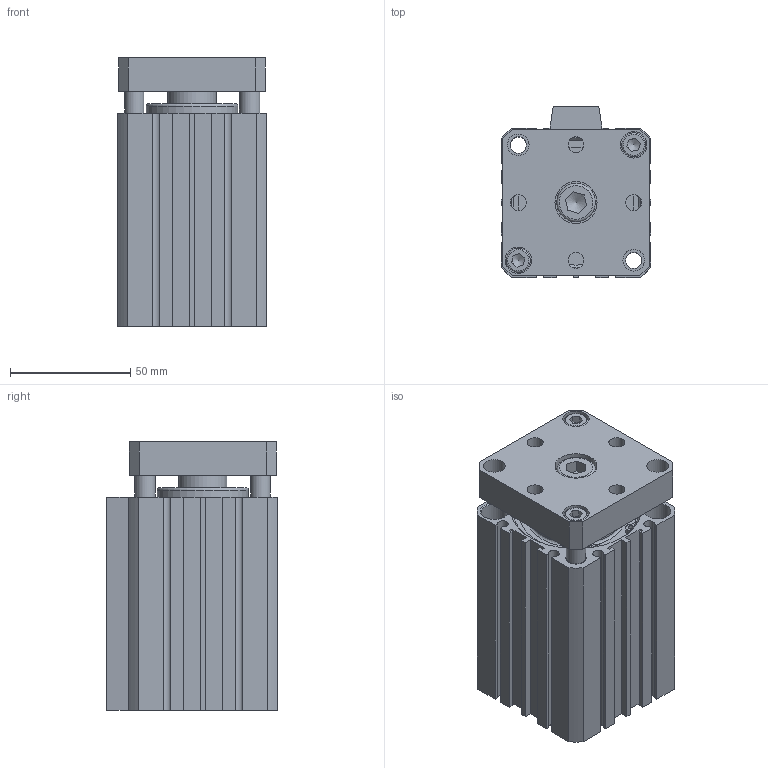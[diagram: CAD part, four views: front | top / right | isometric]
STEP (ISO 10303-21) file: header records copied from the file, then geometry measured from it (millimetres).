
FILE_DESCRIPTION((''),'2;1');
FILE_NAME('I:\3D電子目錄\氣缸\JTD\JTD\JTD50\JTD50x60.stp','2007-08-14T19:27:53',('Administrator'),(''),'Autodesk Inventor 11','Autodesk Inventor 11','');
FILE_SCHEMA(('AUTOMOTIVE_DESIGN { 1 0 10303 214 1 1 1 1 }'));
Length unit declared in the file: millimetre
Products named in the file (5): JTD50; R 形環 52; ISO 4762 M10 x 16; ISO 4762 M6 x 20
Assembly tree (6 placements, depth 2):
  JTD50
    JTD50
    R 形環 52  x2
    ISO 4762 M10 x 16
    ISO 4762 M6 x 20  x2
Bounding box: 62 x 71 x 111.6 mm (x, y, z)
Volume: 352039.3 mm3; surface area: 75380.5 mm2
Topology: 6 solids, 6 shells, 228 faces, 548 edges, 360 vertices
Faces by surface type: plane 135, cylinder 58, bspline 16, cone 14, torus 5
Full cylindrical faces by diameter (mm): 2.3 x4, 2.7 x2, 6 x2, 6.8 x2, 8 x2, 8.5 x3, 9 x2, 10 x3, 11 x4, 16 x1, 20 x1, 37 x1, 38 x1, 52 x4, 55 x2
Entity records: 5925 total; most frequent: CARTESIAN_POINT 1242, DIRECTION 938, ORIENTED_EDGE 844, EDGE_CURVE 422, AXIS2_PLACEMENT_3D 331, EDGE_LOOP 314, VERTEX_POINT 313, VECTOR 276
